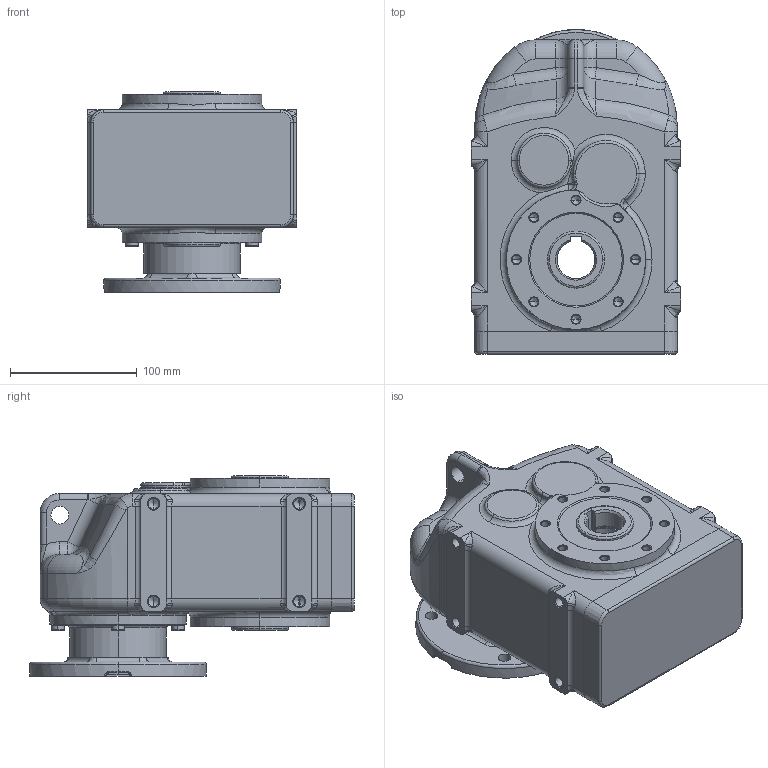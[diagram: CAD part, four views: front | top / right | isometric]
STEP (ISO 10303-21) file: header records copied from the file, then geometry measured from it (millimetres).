
FILE_DESCRIPTION (( 'STEP AP214' ), '1' );
FILE_NAME ('tnc13-f115-ap71.STEP', '2009-09-25T08:15:47', ( '' ), ( '' ), 'SwSTEP 2.0', 'SolidWorks 2003240', '' );
FILE_SCHEMA (( 'AUTOMOTIVE_DESIGN' ));
Length unit declared in the file: millimetre
Products named in the file (4): tnc13-f115-ap71; Skøíò TNC1_Skøíò TNC13 AP71; D6912_Šroub DIN 6912 - M6x20; pøíruba d55 MRT60a_pøíruba 95-115-140
Assembly tree (8 placements, depth 2):
  tnc13-f115-ap71
    D6912_Šroub DIN 6912 - M6x20  x6
    pøíruba d55 MRT60a_pøíruba 95-115-140
    Skøíò TNC1_Skøíò TNC13 AP71
Bounding box: 165 x 256.26 x 158 mm (x, y, z)
Volume: 3751379.3 mm3; surface area: 230231.3 mm2
Topology: 8 solids, 8 shells, 1151 faces, 2650 edges, 1482 vertices
Faces by surface type: cylinder 276, torus 270, cone 253, plane 183, bspline 164, sphere 5
Entity records: 147511 total; most frequent: CARTESIAN_POINT 124998, DIRECTION 4763, ORIENTED_EDGE 4472, EDGE_CURVE 2236, AXIS2_PLACEMENT_3D 2089, VERTEX_POINT 1327, CIRCLE 1276, EDGE_LOOP 1043
